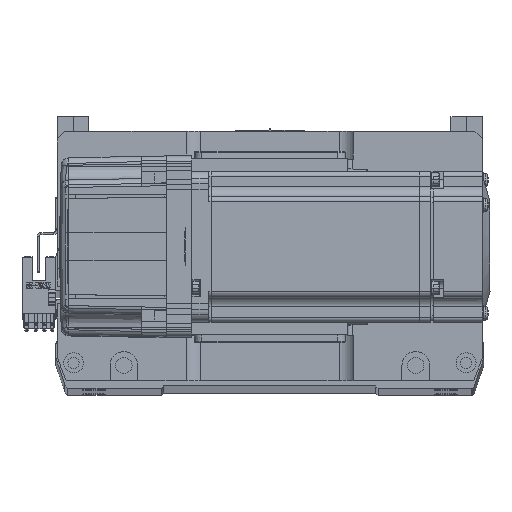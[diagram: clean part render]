
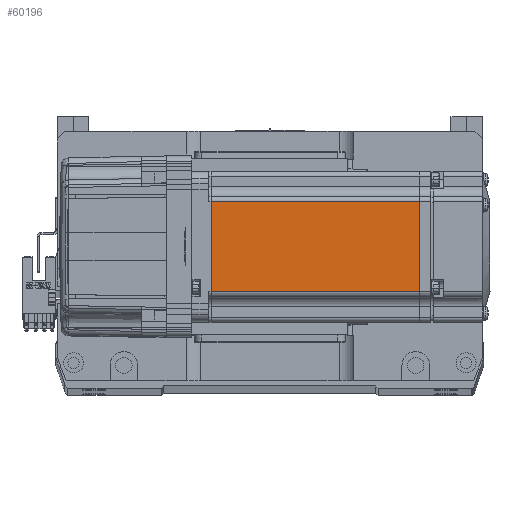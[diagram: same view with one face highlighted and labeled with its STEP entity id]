
A CAD part, top view. The second image highlights one B-rep face of the part: STEP entity #60196.
In plain terms, the highlighted planar face has unit normal (0, 0, 1) as drawn and (0, -1, 0) by its records, which use the part's own axes.
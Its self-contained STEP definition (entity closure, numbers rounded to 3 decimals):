
#379 = VERTEX_POINT ( 'NONE', #20816 ) ;
#1963 = EDGE_CURVE ( 'NONE', #28674, #379, #42801, .T. ) ;
#2263 = DIRECTION ( 'NONE',  ( 0., 0., -1. ) ) ;
#2557 = FACE_OUTER_BOUND ( 'NONE', #58096, .T. ) ;
#6611 = ORIENTED_EDGE ( 'NONE', *, *, #10810, .T. ) ;
#7951 = VERTEX_POINT ( 'NONE', #47624 ) ;
#8426 = ORIENTED_EDGE ( 'NONE', *, *, #53850, .T. ) ;
#9594 = VECTOR ( 'NONE', #27616, 1000. ) ;
#10810 = EDGE_CURVE ( 'NONE', #44435, #28674, #32466, .T. ) ;
#15934 = VECTOR ( 'NONE', #23079, 1000. ) ;
#16170 = ORIENTED_EDGE ( 'NONE', *, *, #42197, .T. ) ;
#20816 = CARTESIAN_POINT ( 'NONE',  ( -90.45, -30., 18. ) ) ;
#21629 = ORIENTED_EDGE ( 'NONE', *, *, #1963, .T. ) ;
#22712 = CARTESIAN_POINT ( 'NONE',  ( -6.5, -30., -18. ) ) ;
#23079 = DIRECTION ( 'NONE',  ( -1., 0., 0. ) ) ;
#26963 = VECTOR ( 'NONE', #31508, 1000. ) ;
#27218 = PLANE ( 'NONE',  #35991 ) ;
#27616 = DIRECTION ( 'NONE',  ( 1., 0., 0. ) ) ;
#28674 = VERTEX_POINT ( 'NONE', #49225 ) ;
#29003 = VECTOR ( 'NONE', #41289, 1000. ) ;
#31508 = DIRECTION ( 'NONE',  ( 0., 0., 1. ) ) ;
#31913 = CARTESIAN_POINT ( 'NONE',  ( -7.75, -30., -25. ) ) ;
#32466 = LINE ( 'NONE', #31913, #26963 ) ;
#32491 = CARTESIAN_POINT ( 'NONE',  ( -6.5, -30., -25. ) ) ;
#32840 = CARTESIAN_POINT ( 'NONE',  ( -6.5, -30., 18. ) ) ;
#35991 = AXIS2_PLACEMENT_3D ( 'NONE', #32491, #57671, #2263 ) ;
#40794 = LINE ( 'NONE', #45756, #29003 ) ;
#41278 = CARTESIAN_POINT ( 'NONE',  ( -7.75, -30., -18. ) ) ;
#41289 = DIRECTION ( 'NONE',  ( 0., 0., -1. ) ) ;
#42197 = EDGE_CURVE ( 'NONE', #379, #7951, #40794, .T. ) ;
#42801 = LINE ( 'NONE', #32840, #15934 ) ;
#44435 = VERTEX_POINT ( 'NONE', #41278 ) ;
#45756 = CARTESIAN_POINT ( 'NONE',  ( -90.45, -30., -25. ) ) ;
#47624 = CARTESIAN_POINT ( 'NONE',  ( -90.45, -30., -18. ) ) ;
#49225 = CARTESIAN_POINT ( 'NONE',  ( -7.75, -30., 18. ) ) ;
#53850 = EDGE_CURVE ( 'NONE', #7951, #44435, #55394, .T. ) ;
#55394 = LINE ( 'NONE', #22712, #9594 ) ;
#57671 = DIRECTION ( 'NONE',  ( 0., -1., 0. ) ) ;
#58096 = EDGE_LOOP ( 'NONE', ( #6611, #21629, #16170, #8426 ) ) ;
#60196 = ADVANCED_FACE ( 'NONE', ( #2557 ), #27218, .T. ) ;
